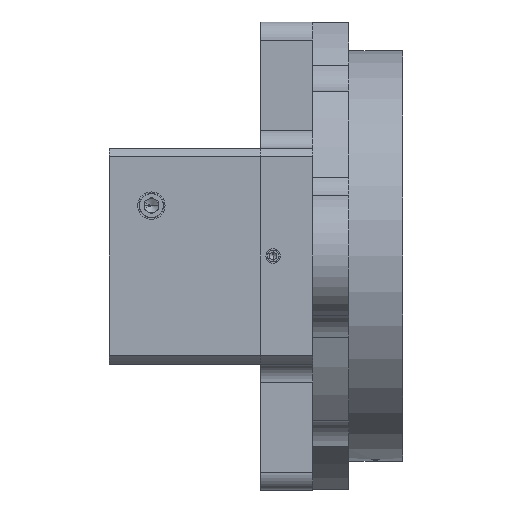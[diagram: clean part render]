
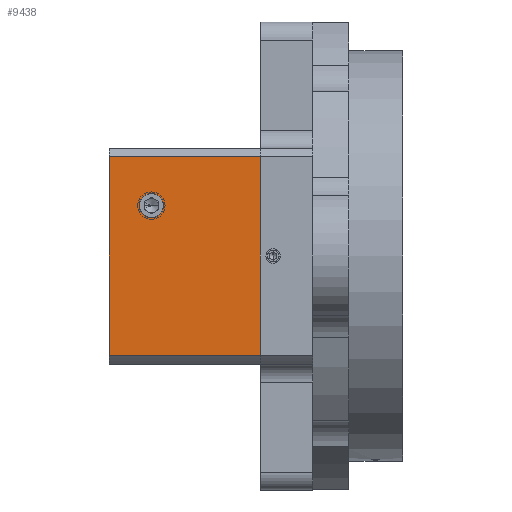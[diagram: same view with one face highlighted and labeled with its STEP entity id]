
A CAD part, front view. The second image highlights one B-rep face of the part: STEP entity #9438.
In plain terms, the highlighted planar face has unit normal (0, -1, 0).
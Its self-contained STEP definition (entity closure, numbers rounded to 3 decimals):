
#180 = CARTESIAN_POINT ( 'NONE',  ( 4., -30., 0. ) ) ;
#197 = DIRECTION ( 'NONE',  ( 0., 0., 1. ) ) ;
#228 = AXIS2_PLACEMENT_3D ( 'NONE', #8153, #14455, #8106 ) ;
#432 = CARTESIAN_POINT ( 'NONE',  ( 4., -30., -27.578 ) ) ;
#435 = DIRECTION ( 'NONE',  ( 1., 0., 0. ) ) ;
#474 = VECTOR ( 'NONE', #197, 1000. ) ;
#502 = CARTESIAN_POINT ( 'NONE',  ( -26.3, -30., 17.4 ) ) ;
#511 = LINE ( 'NONE', #180, #474 ) ;
#702 = VECTOR ( 'NONE', #435, 1000. ) ;
#880 = LINE ( 'NONE', #432, #702 ) ;
#909 = CARTESIAN_POINT ( 'NONE',  ( -26.3, -30., 10.6 ) ) ;
#990 = VERTEX_POINT ( 'NONE', #1468 ) ;
#1027 = VERTEX_POINT ( 'NONE', #1735 ) ;
#1468 = CARTESIAN_POINT ( 'NONE',  ( 4., -30., -27.578 ) ) ;
#1735 = CARTESIAN_POINT ( 'NONE',  ( -38., -30., 27.578 ) ) ;
#2360 = VERTEX_POINT ( 'NONE', #9506 ) ;
#2752 = EDGE_CURVE ( 'NONE', #10411, #15670, #17476, .T. ) ;
#3136 = ORIENTED_EDGE ( 'NONE', *, *, #5903, .F. ) ;
#3248 = ORIENTED_EDGE ( 'NONE', *, *, #12295, .T. ) ;
#3444 = EDGE_CURVE ( 'NONE', #1027, #2360, #13621, .T. ) ;
#3796 = ORIENTED_EDGE ( 'NONE', *, *, #2752, .T. ) ;
#4727 = DIRECTION ( 'NONE',  ( 0., 0., -1. ) ) ;
#4747 = DIRECTION ( 'NONE',  ( 0., 1., 0. ) ) ;
#4768 = CARTESIAN_POINT ( 'NONE',  ( -26.3, -30., 14. ) ) ;
#5640 = EDGE_CURVE ( 'NONE', #2360, #990, #880, .T. ) ;
#5669 = EDGE_CURVE ( 'NONE', #990, #15995, #511, .T. ) ;
#5903 = EDGE_CURVE ( 'NONE', #1027, #15995, #15736, .T. ) ;
#6869 = AXIS2_PLACEMENT_3D ( 'NONE', #4768, #4747, #4727 ) ;
#7266 = AXIS2_PLACEMENT_3D ( 'NONE', #12281, #12277, #12315 ) ;
#8060 = ORIENTED_EDGE ( 'NONE', *, *, #5669, .T. ) ;
#8106 = DIRECTION ( 'NONE',  ( 0., 0., -1. ) ) ;
#8153 = CARTESIAN_POINT ( 'NONE',  ( 4., -30., -30. ) ) ;
#8173 = PLANE ( 'NONE',  #228 ) ;
#8677 = CARTESIAN_POINT ( 'NONE',  ( -34., -30., 27.578 ) ) ;
#9130 = DIRECTION ( 'NONE',  ( 1., 0., 0. ) ) ;
#9438 = ADVANCED_FACE ( 'NONE', ( #13994, #11359 ), #8173, .T. ) ;
#9506 = CARTESIAN_POINT ( 'NONE',  ( -38., -30., -27.578 ) ) ;
#10158 = ORIENTED_EDGE ( 'NONE', *, *, #3444, .T. ) ;
#10411 = VERTEX_POINT ( 'NONE', #502 ) ;
#10640 = ORIENTED_EDGE ( 'NONE', *, *, #5640, .T. ) ;
#11359 = FACE_BOUND ( 'NONE', #16823, .T. ) ;
#12277 = DIRECTION ( 'NONE',  ( 0., 1., 0. ) ) ;
#12281 = CARTESIAN_POINT ( 'NONE',  ( -26.3, -30., 14. ) ) ;
#12295 = EDGE_CURVE ( 'NONE', #15670, #10411, #17439, .T. ) ;
#12315 = DIRECTION ( 'NONE',  ( 0., 0., -1. ) ) ;
#13228 = CARTESIAN_POINT ( 'NONE',  ( -38., -30., -30. ) ) ;
#13388 = EDGE_LOOP ( 'NONE', ( #10640, #8060, #3136, #10158 ) ) ;
#13517 = VECTOR ( 'NONE', #13522, 1000. ) ;
#13522 = DIRECTION ( 'NONE',  ( 0., 0., -1. ) ) ;
#13621 = LINE ( 'NONE', #13228, #13517 ) ;
#13811 = VECTOR ( 'NONE', #9130, 1000. ) ;
#13994 = FACE_OUTER_BOUND ( 'NONE', #13388, .T. ) ;
#14455 = DIRECTION ( 'NONE',  ( 0., -1., 0. ) ) ;
#14618 = CARTESIAN_POINT ( 'NONE',  ( 4., -30., 27.578 ) ) ;
#15670 = VERTEX_POINT ( 'NONE', #909 ) ;
#15736 = LINE ( 'NONE', #8677, #13811 ) ;
#15995 = VERTEX_POINT ( 'NONE', #14618 ) ;
#16823 = EDGE_LOOP ( 'NONE', ( #3248, #3796 ) ) ;
#17439 = CIRCLE ( 'NONE', #6869, 3.4 ) ;
#17476 = CIRCLE ( 'NONE', #7266, 3.4 ) ;
